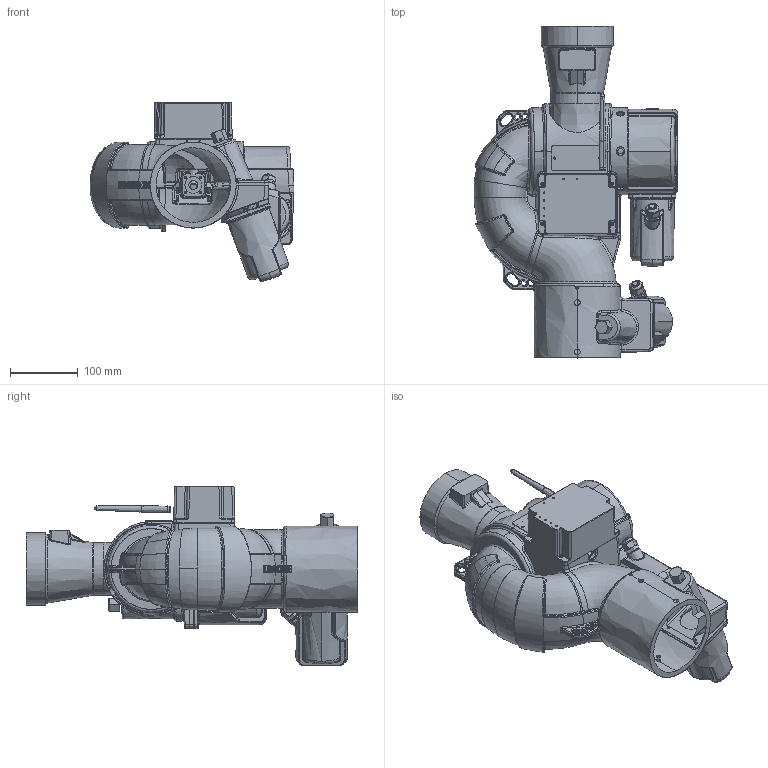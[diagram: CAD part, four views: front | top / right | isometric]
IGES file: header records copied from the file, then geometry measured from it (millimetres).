
Start section: SolidWorks IGES file using NURBS representation for surfaces
Global section: file name: C:\Jobs\Elkhart Brass\1481 Dumb Down Models\7250 SD - No Base\7250 SD - No Base\7250 SD - No BaseDD.IGS; native system: SolidWorks 2013; preprocessor: SolidWorks 2013; author: RAsire; date: 131029.133219; units: inch
Bounding box: 301.35 x 490.31 x 265.8 mm (x, y, z)
Volume: 4337247.1 mm3; surface area: 649027 mm2
Topology: 18 solids, 18 shells, 2356 faces, 10854 edges, 9483 vertices
Faces by surface type: bspline 2356
